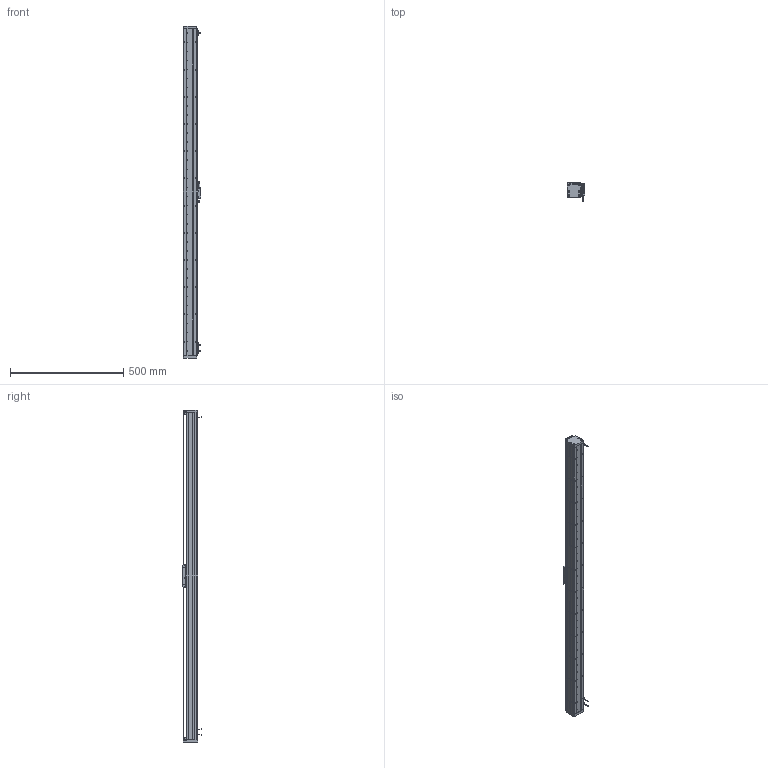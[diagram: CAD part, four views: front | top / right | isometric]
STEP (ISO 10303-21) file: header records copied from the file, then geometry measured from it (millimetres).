
FILE_DESCRIPTION (( 'STEP AP203' ), '1' );
FILE_NAME ('DA-A60-B1-T1300-C010-0.2 眻盄萇儂.STEP', '2025-08-13T02:09:52', ( '' ), ( '' ), 'SwSTEP 2.0', 'SolidWorks 2019', '' );
FILE_SCHEMA (( 'CONFIG_CONTROL_DESIGN' ));
Length unit declared in the file: millimetre
Products named in the file (24): IU-AU60-L-00 菁釱(1440); DA60-B1-HT-B-03 賑雄怢啣; 复件 DA-A60-GYP-DMT-00 光电感应片^DA-A60-B1-T-C010-0.2-N 直线电机(默认); 复件 DA60-B1-GT-00 滑块钢轨^DA60-YT-B1-HT-B-01 一体化滑动台板; DA60-XJ-00 砎蝶結輸; 复件 XD-U-02  磁栅尺^DA-A60-B1-T-C010-0.2-N 直线电机; 葩璃 DA60-HK-DP-01 結え^AU60-V 幗紩賑怢; 复件 六角薄螺母 M3^DA-A60-B1-T-C010-0.2-N 直线电机(GB_FASTENER_NUT_STNAB M3-C); AU60-L 菁釱絳寢; 13679-0000-006-00  钢带压块(默认); DA60-YT-B1-HT-B-01 珨极趙賑雄怢啣; DA-A60-GD-1020-00 钢带盖板(默认); 复件 DA60-GT-T-00 底座钢轨^AU60-L 底座导轨; 13679-0000-005-00 詩湍嶺輸; 复件 DA60-DMT-DTJ-00 读数头支架^DA-A60-B1-T-C010-0.2-N 直线电机; 葩璃 DMT-010 1米m 0.2M^DA-A60-B1-T-C010-0.2-N 眻盄萇儂; AU60-V 幗紩賑怢; 葩璃 AKM01-W030-TRL^DA-A60-B1-T-C010-0.2-N 眻盄萇儂; DA60嶺詩湍郪璃-T1060; 复件 纯铜油杯 6x6mm^AU60-V 滚珠滑台; 葩璃 PM-T45^DA-A60-B1-T-C010-0.2-N 眻盄萇儂; DA-A60-B1-T1300-C010-0.2 眻盄萇儂; 复件 BAKM01-W030-C1-TP-0.2 直线电机动子^DA-A60-B1-T-C010-0.2-N 直线电机; 13679-0000-004-00 傷啣
Assembly tree (38 placements, depth 4):
  DA-A60-B1-T1300-C010-0.2 眻盄萇儂
    AU60-L 菁釱絳寢
      IU-AU60-L-00 菁釱(1440)
      复件 DA60-GT-T-00 底座钢轨^AU60-L 底座导轨  x2
    AU60-V 幗紩賑怢
      DA60-YT-B1-HT-B-01 珨极趙賑雄怢啣
        DA60-B1-HT-B-03 賑雄怢啣
        复件 DA60-B1-GT-00 滑块钢轨^DA60-YT-B1-HT-B-01 一体化滑动台板  x2
      葩璃 DA60-HK-DP-01 結え^AU60-V 幗紩賑怢  x2
      复件 纯铜油杯 6x6mm^AU60-V 滚珠滑台
    DA60嶺詩湍郪璃-T1060
      13679-0000-006-00  钢带压块(默认)  x2
      DA-A60-GD-1020-00 钢带盖板(默认)
      13679-0000-004-00 傷啣  x2
      DA60-XJ-00 砎蝶結輸  x2
      13679-0000-005-00 詩湍嶺輸  x2
    复件 DA-A60-GYP-DMT-00 光电感应片^DA-A60-B1-T-C010-0.2-N 直线电机(默认)  x2
    复件 DA60-DMT-DTJ-00 读数头支架^DA-A60-B1-T-C010-0.2-N 直线电机
    葩璃 DMT-010 1米m 0.2M^DA-A60-B1-T-C010-0.2-N 眻盄萇儂
    复件 BAKM01-W030-C1-TP-0.2 直线电机动子^DA-A60-B1-T-C010-0.2-N 直线电机
    葩璃 AKM01-W030-TRL^DA-A60-B1-T-C010-0.2-N 眻盄萇儂
    葩璃 PM-T45^DA-A60-B1-T-C010-0.2-N 眻盄萇儂  x3
    复件 XD-U-02  磁栅尺^DA-A60-B1-T-C010-0.2-N 直线电机
    复件 六角薄螺母 M3^DA-A60-B1-T-C010-0.2-N 直线电机(GB_FASTENER_NUT_STNAB M3-C)  x6
Bounding box: 76.95 x 80 x 1464 mm (x, y, z)
Volume: 2831584.5 mm3; surface area: 1019740.3 mm2
Topology: 39 solids, 41 shells, 2325 faces, 6526 edges, 4175 vertices
Faces by surface type: cylinder 1064, plane 1063, cone 186, bspline 7, torus 4, sphere 1
Entity records: 68728 total; most frequent: CARTESIAN_POINT 16334, ORIENTED_EDGE 10600, DIRECTION 10090, EDGE_CURVE 5300, AXIS2_PLACEMENT_3D 3554, VERTEX_POINT 3453, VECTOR 2982, LINE 2982
